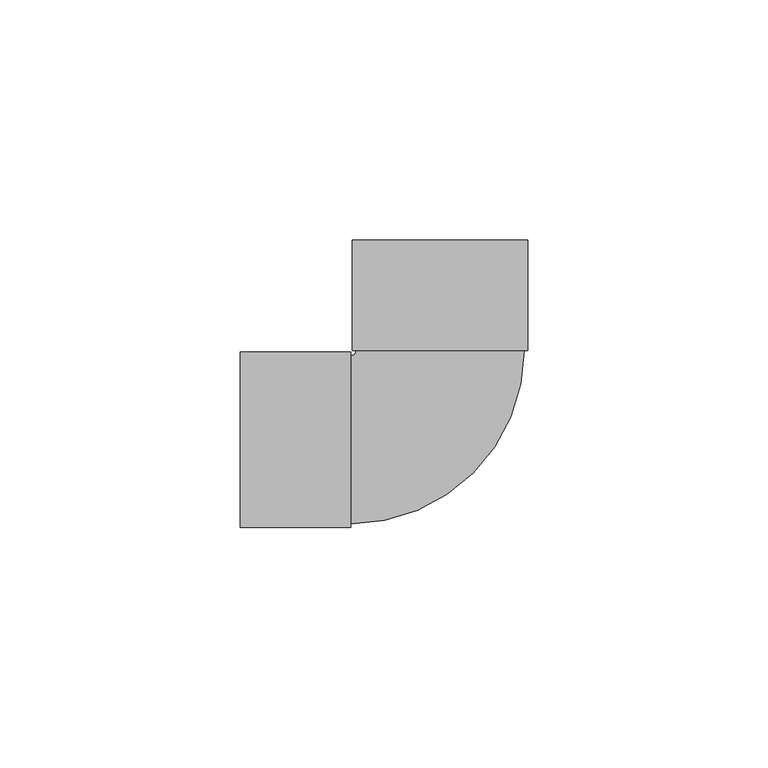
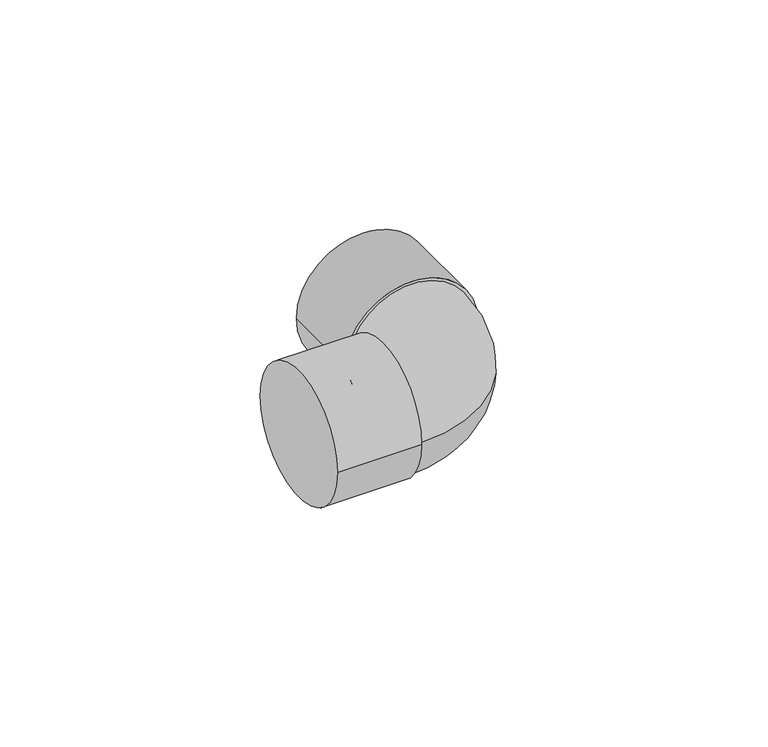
"""IFC4 building model written with IfcOpenShell, lengths in millimetres: pipe fitting geometry, Cotovelo - Soldado - CU : Padrão."""

from ifc_helpers import new_model, si_unit, point, frame, origin, place, context, project, spatial, circle_curve, ellipse_curve, trimmed, source, transform, mapped, element, save
from ifc_brep_helpers import plane_surface, cylinder_surface, revolved_surface, advanced_brep


def pipe_fitting_1c2f676e(model_context):
    return source(origin(), model_context, "Body", "AdvancedBrep", [
        advanced_brep(
        [(-17.5005658, 18.5994677, 0.0), (-18.6, 17.5, 0.0), (-18.6, -17.5, 0.0), (17.4994342, 18.6005323, 0.0), (-41.6, -18.28, 0.0), (-41.6, 18.28, 0.0), (-18.6, -18.28, 0.0), (-18.6, 18.28, 0.0), (-18.2812654, 41.5994439, 0.0), (18.2787346, 41.600556, 0.0), (-18.2805658, 18.5994439, 0.0), (18.2794342, 18.6005561, 0.0)],
        [
            (0, 1, circle_curve(frame((-18.6, 18.5994342, 0.0), z_axis=(0.0, 0.0, -1.0), x_axis=(0.0, -1.0, 0.0)), 1.0994342)),
            (1, 2, circle_curve(frame((-18.6, 0.0, 0.0), z_axis=(1.0, 0.0, 0.0), x_axis=(0.0, 1.0, 0.0)), 17.5)),
            (2, 3, circle_curve(frame((-18.6, 18.5994342, 0.0), z_axis=(0.0, 0.0, 1.0), x_axis=(0.0, -1.0, 0.0)), 36.0994342)),
            (3, 0, circle_curve(frame((-0.0005658, 18.6, 0.0), z_axis=(3.0419120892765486e-05, -0.9999999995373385, 0.0), x_axis=(-0.9999999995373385, -3.0419120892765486e-05, 0.0)), 17.5)),
            (0, 3, circle_curve(frame((-0.0005658, 18.6, 0.0), z_axis=(3.0419120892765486e-05, -0.9999999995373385, 0.0), x_axis=(-0.9999999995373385, -3.0419120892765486e-05, 0.0)), 17.5)),
            (2, 1, circle_curve(frame((-18.6, 0.0, 0.0), z_axis=(1.0, 0.0, 0.0), x_axis=(0.0, 1.0, 0.0)), 17.5)),
            (4, 5, circle_curve(frame((-41.6, 0.0, 0.0), z_axis=(-1.0, 0.0, 0.0), x_axis=(0.0, 1.0, 0.0)), 18.28)),
            (5, 4, circle_curve(frame((-41.6, 0.0, 0.0), z_axis=(-1.0, 0.0, 0.0), x_axis=(0.0, 1.0, 0.0)), 18.28)),
            (6, 7, circle_curve(frame((-18.6, 0.0, 0.0), z_axis=(1.0, 0.0, 0.0), x_axis=(0.0, 1.0, 0.0)), 18.28)),
            (7, 6, circle_curve(frame((-18.6, 0.0, 0.0), z_axis=(1.0, 0.0, 0.0), x_axis=(0.0, 1.0, 0.0)), 18.28)),
            (4, 6),
            (7, 5),
            (8, 9, circle_curve(frame((-0.0012654, 41.6, 0.0), z_axis=(-3.041912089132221e-05, 0.9999999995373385, 0.0), x_axis=(0.9999999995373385, 3.041912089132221e-05, 0.0)), 18.28)),
            (9, 8, circle_curve(frame((-0.0012654, 41.6, 0.0), z_axis=(-3.041912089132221e-05, 0.9999999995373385, 0.0), x_axis=(0.9999999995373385, 3.041912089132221e-05, 0.0)), 18.28)),
            (10, 11, circle_curve(frame((-0.0005658, 18.6, 0.0), z_axis=(3.041912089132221e-05, -0.9999999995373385, 0.0), x_axis=(0.9999999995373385, 3.041912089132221e-05, 0.0)), 18.28)),
            (11, 10, circle_curve(frame((-0.0005658, 18.6, 0.0), z_axis=(3.041912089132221e-05, -0.9999999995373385, 0.0), x_axis=(0.9999999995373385, 3.041912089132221e-05, 0.0)), 18.28)),
            (8, 10),
            (11, 9),
        ],
        [
            revolved_surface(trimmed(ellipse_curve(frame((-18.6, 0.0, 0.0), z_axis=(-1.0, 0.0, 0.0), x_axis=(0.0, 1.0, 0.0)), 17.5, 17.5), [point((-18.6, -17.5, 0.0))], [point((-18.6, 17.5, 0.0))], True, "CARTESIAN"), (-18.6, 18.5994342, 0.0), (0.0, 0.0, 1.0)),
            revolved_surface(trimmed(ellipse_curve(frame((-18.6, 0.0, 0.0), z_axis=(-1.0, 0.0, 0.0), x_axis=(0.0, 1.0, 0.0)), 17.5, 17.5), [point((-18.6, 17.5, 0.0))], [point((-18.6, -17.5, 0.0))], True, "CARTESIAN"), (-18.6, 18.5994342, 0.0), (0.0, 0.0, 1.0)),
            plane_surface(frame((-41.6, 0.0, 0.0), z_axis=(-1.0, 0.0, 0.0), x_axis=(0.0, 0.0, 1.0))),
            plane_surface(frame((-18.6, 0.0, 0.0), z_axis=(1.0, 0.0, 0.0), x_axis=(0.0, 0.0, 1.0))),
            cylinder_surface(frame((-41.6, 0.0, 0.0), z_axis=(-1.0, 0.0, 0.0), x_axis=(0.0, 1.0, 0.0)), 18.28),
            plane_surface(frame((-0.0012654, 41.6, 0.0), z_axis=(-3.041912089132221e-05, 0.9999999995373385, 0.0), x_axis=(0.0, 0.0, 1.0))),
            plane_surface(frame((-0.0005658, 18.6, 0.0), z_axis=(3.041912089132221e-05, -0.9999999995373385, 0.0), x_axis=(0.0, 0.0, 1.0))),
            cylinder_surface(frame((-0.0012654, 41.6, 0.0), z_axis=(-3.041912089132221e-05, 0.9999999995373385, 0.0), x_axis=(0.9999999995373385, 3.041912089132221e-05, 0.0)), 18.28),
        ],
        [
            (0, [[1, 2, 3, 4]]),
            (1, [[-1, 5, -3, 6]]),
            (2, [[7, 8]]),
            (3, [[9, 10], [-2, -6]]),
            (4, [[-7, 11, -10, 12]]),
            (4, [[-8, -12, -9, -11]]),
            (5, [[13, 14]]),
            (6, [[15, 16], [-4, -5]]),
            (7, [[-13, 17, -16, 18]]),
            (7, [[-14, -18, -15, -17]]),
        ],
    ),
    ])


if __name__ == "__main__":
    model = new_model("IFC4")
    model_context = context("Model", 3, world=origin())
    ifc_project = project(units=[si_unit("LENGTHUNIT", "METRE", prefix="MILLI")], contexts=[model_context])
    site = spatial("IfcSite", under=ifc_project)
    building = spatial("IfcBuilding", under=site)
    placement = place(None, origin())
    pipe_fitting_shape = pipe_fitting_1c2f676e(model_context)
    element("IfcPipeFitting", 1, ObjectType="Cotovelo - Soldado - CU : Padrão", at=placement, inside=building, context=model_context, shape_type="MappedRepresentation", body=[
        mapped(pipe_fitting_shape, transform((0.0, 0.0, 0.0), x_axis=(1.0, 0.0, 0.0), y_axis=(0.0, 1.0, 0.0), z_axis=(0.0, 0.0, 1.0))),
    ])
    save(model, "model.ifc")
